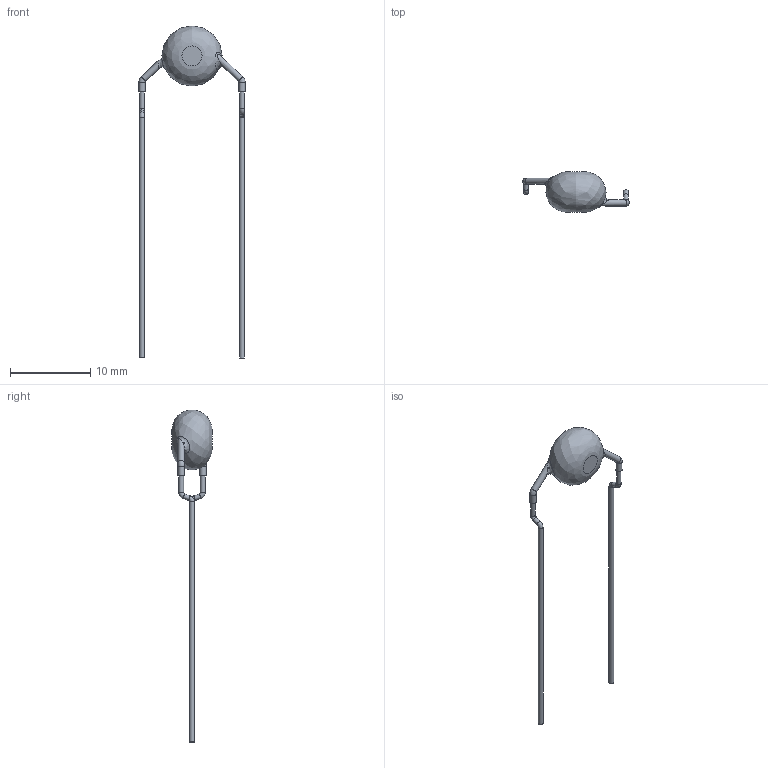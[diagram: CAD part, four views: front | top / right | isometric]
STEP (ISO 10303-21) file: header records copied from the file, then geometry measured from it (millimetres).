
FILE_DESCRIPTION((''),'2;1');
FILE_NAME('I:\Marketing\M6t1\3D-Models\Zchng-Werk-3\Upload for homepage\BCC\VY1-Compact\Y5U-12,5mm\VY1471M29Y5UC63VX\VY1471M29Y5UC63VX.stp','2015-09-01T11:56:59',('sherden'),(''),'Autodesk Inventor 2013','Autodesk Inventor 2013','');
FILE_SCHEMA(('CONFIG_CONTROL_DESIGN'));
Length unit declared in the file: millimetre
Products named in the file (1): VY1471M29Y5UC63VX
Bounding box: 13.3 x 5 x 41.5 mm (x, y, z)
Volume: 192.3 mm3; surface area: 304.2 mm2
Topology: 1 solids, 1 shells, 27 faces, 47 edges, 28 vertices
Faces by surface type: cylinder 10, torus 6, plane 6, bspline 5
Full cylindrical faces by diameter (mm): 0.6 x6, 0.8 x4
Entity records: 1148 total; most frequent: CARTESIAN_POINT 646, DIRECTION 90, ORIENTED_EDGE 56, EDGE_LOOP 50, AXIS2_PLACEMENT_3D 45, EDGE_CURVE 28, STYLED_ITEM 28, FACE_OUTER_BOUND 27
